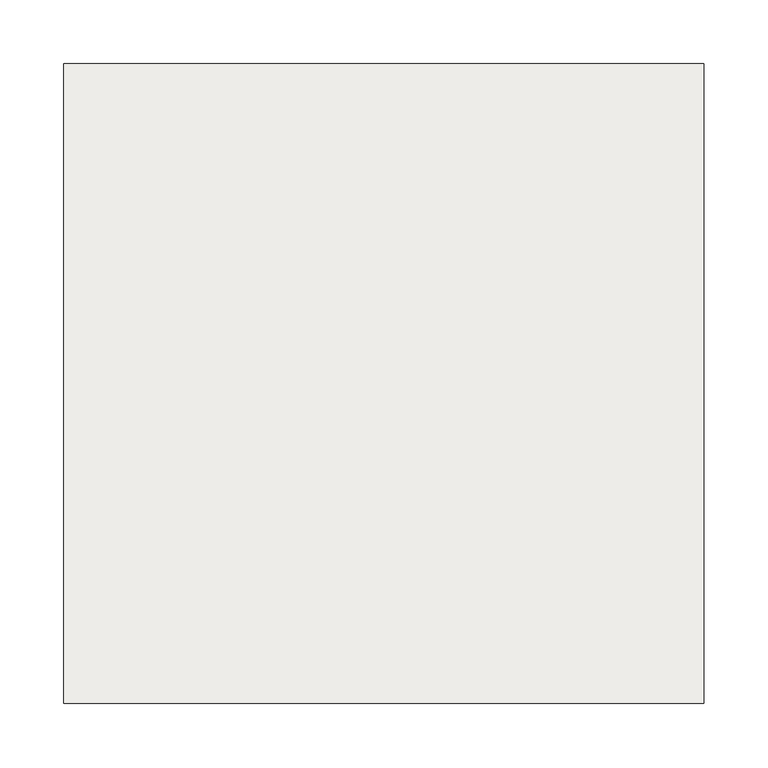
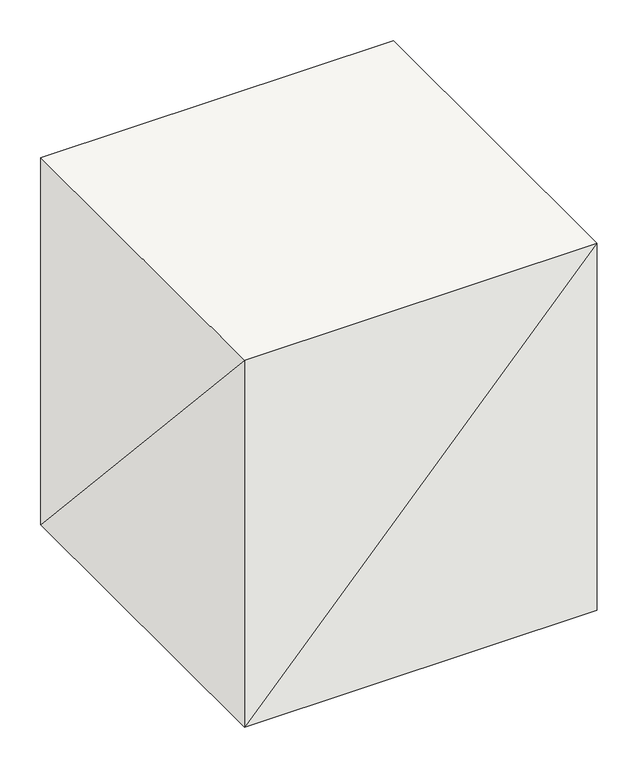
"""IFC4 building model written with IfcOpenShell, lengths in millimetres: slab geometry."""

from ifc_helpers import new_model, si_unit, origin, place, context, project, spatial, faceted_brep, source, transform, mapped, element, save


def slab_c764ccaf(model_context):
    return source(origin(), model_context, "Body", "Brep", [
        faceted_brep([(250.0, -250.0, -550.0), (-250.0, -250.0, -550.0), (-250.0, 250.0, -550.0), (250.0, 250.0, -550.0), (250.0, 250.0, 0.0), (-250.0, 250.0, 0.0), (-250.0, -250.0, 0.0), (250.0, -250.0, 0.0)], [[[0, 1, 2, 3]], [[4, 5, 6, 7]], [[4, 3, 5]], [[3, 2, 5]], [[5, 2, 6]], [[2, 1, 6]], [[6, 1, 7]], [[1, 0, 7]], [[7, 0, 4]], [[0, 3, 4]]]),
    ])


if __name__ == "__main__":
    model = new_model("IFC4")
    model_context = context("Model", 3, world=origin())
    ifc_project = project(units=[si_unit("LENGTHUNIT", "METRE", prefix="MILLI")], contexts=[model_context])
    site = spatial("IfcSite", under=ifc_project)
    building = spatial("IfcBuilding", under=site)
    placement = place(None, origin())
    slab_shape = slab_c764ccaf(model_context)
    element("IfcSlab", 1, at=placement, inside=building, context=model_context, shape_type="MappedRepresentation", body=[
        mapped(slab_shape, transform((0.0, 0.0, 0.0), x_axis=(1.0, 0.0, 0.0), y_axis=(0.0, 1.0, 0.0), z_axis=(0.0, 0.0, 1.0))),
    ])
    save(model, "model.ifc")
